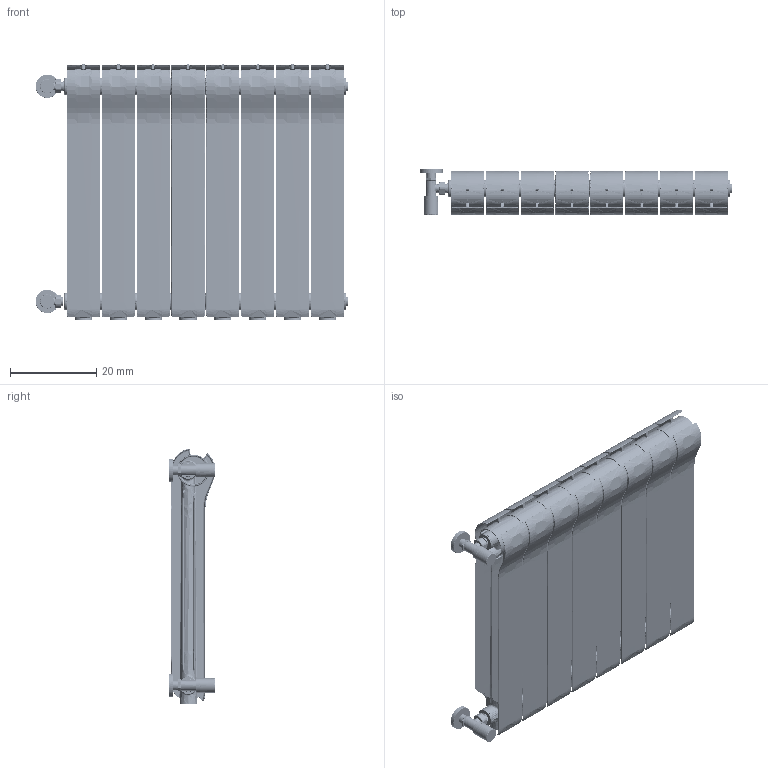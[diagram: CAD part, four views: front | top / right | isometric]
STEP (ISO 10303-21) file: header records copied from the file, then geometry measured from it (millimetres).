
FILE_DESCRIPTION(/* description */ (''),/* implementation_level */ '2;1');
FILE_NAME(/* name */ 'ottimo',/* time_stamp */ '2017-01-13T14:26:30+01:00',/* author */ (''),/* organization */ (''),/* preprocessor_version */ 'ST-DEVELOPER v15',/* originating_system */ '',/* authorisation */ '');
FILE_SCHEMA (('CONFIG_CONTROL_DESIGN'));
Products named in the file (1): Document
Bounding box: 72.67 x 10.85 x 59.26 mm (x, y, z)
Surface area: 35772.4 mm2
Topology: 21 solids, 37 shells, 7740 faces, 18282 edges, 10160 vertices
Faces by surface type: bspline 6852, plane 888
Entity records: 411864 total; most frequent: CARTESIAN_POINT 316061, ORIENTED_EDGE 35616, EDGE_CURVE 17910, VERTEX_POINT 10160, EDGE_LOOP 7782, ADVANCED_FACE 7740, FACE_OUTER_BOUND 7740, B_SPLINE_CURVE_WITH_KNOTS 5560
